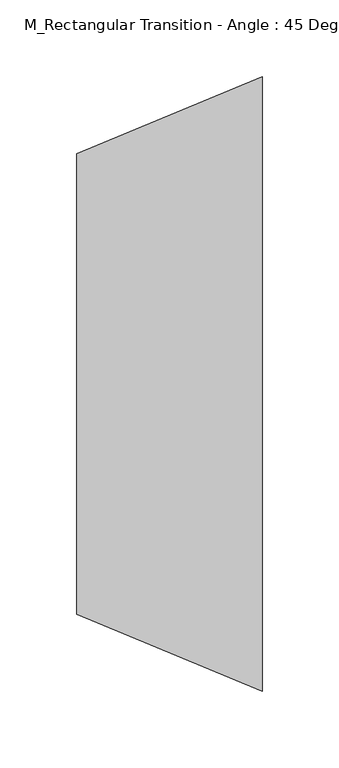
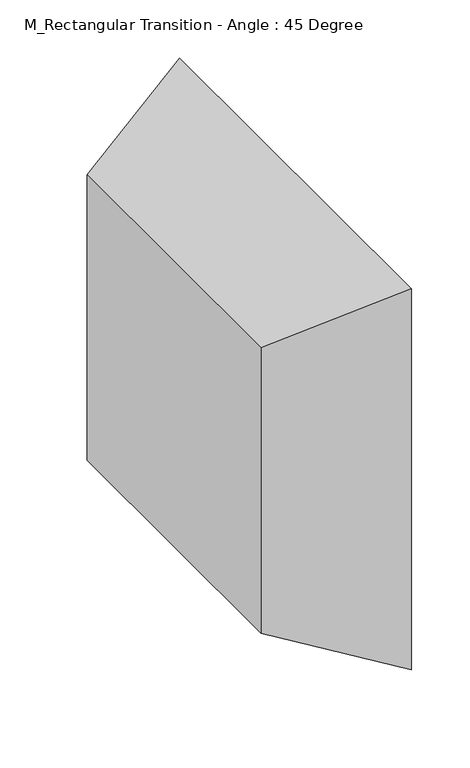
"""IFC4 building model written with IfcOpenShell, lengths in millimetres: duct fitting geometry, M_Rectangular Transition - Angle : 45 Degree."""

import ifcopenshell
import ifcopenshell.guid

model = None  # the IFC model being written
_history = None  # IfcOwnerHistory: only IFC2X3 demands one
_inside = {}  # id of a spatial element -> (the spatial element, [elements in it])
_under = {}  # id of a project, library or spatial element -> (it, [spatial elements below it])
_declared = {}  # id of a project -> (the project, [libraries it declares])
_typed = {}  # id of a type object -> (the type object, [elements of that type])
_made_of = {}  # id of a material, layer set ... -> (it, [elements and type objects made of it])


def new_model(schema):
    """Start an empty IFC model of exactly this schema.

    Asked for "IFC4X3", IfcOpenShell would pick the latest addendum, in which some entities
    have other attributes; the version numbers below select the first issue.
    IFC2X3 requires an IfcOwnerHistory on every rooted entity: one is made here for all.
    """
    global model, _history
    if schema == "IFC4X3":
        model = ifcopenshell.file(schema_version=(4, 3, 0, 0))
    else:
        model = ifcopenshell.file(schema=schema)
    _inside.clear()
    _under.clear()
    _declared.clear()
    _typed.clear()
    _made_of.clear()
    _history = None
    if model.schema == "IFC2X3":
        org = make("IfcOrganization", Name="unknown")
        user = make(
            "IfcPersonAndOrganization",
            ThePerson=make("IfcPerson", FamilyName="unknown"),
            TheOrganization=org,
        )
        app = make(
            "IfcApplication",
            ApplicationDeveloper=org,
            Version="unknown",
            ApplicationFullName="unknown",
            ApplicationIdentifier="unknown",
        )
        _history = make(
            "IfcOwnerHistory",
            OwningUser=user,
            OwningApplication=app,
            ChangeAction="ADDED",
            CreationDate=0,
        )
    return model


def make(cls, **values):
    """One entity of the class cls with the attributes given. An attribute that is None is left unset."""
    return model.create_entity(
        cls, **{name: value for name, value in values.items() if value is not None}
    )


def rooted(cls, **values):
    """An entity with a GlobalId (a new one), such as an element, a storey or a relation."""
    return make(cls, GlobalId=ifcopenshell.guid.new(), OwnerHistory=_history, **values)


def si_unit(unit_type, name, prefix=None):
    """IfcSIUnit, for example si_unit("LENGTHUNIT", "METRE", prefix="MILLI")."""
    return make("IfcSIUnit", UnitType=unit_type, Prefix=prefix, Name=name)


def assignment(units):
    """IfcUnitAssignment: the units of a project."""
    return None if units is None else make("IfcUnitAssignment", Units=units)


def point(xyz):
    """IfcCartesianPoint."""
    return None if xyz is None else make("IfcCartesianPoint", Coordinates=xyz)


def direction(xyz):
    """IfcDirection."""
    return None if xyz is None else make("IfcDirection", DirectionRatios=xyz)


def frame(location, z_axis=None, x_axis=None):
    """IfcAxis2Placement3D, a coordinate frame: its origin and axes. An axis left out is left unset."""
    return make(
        "IfcAxis2Placement3D",
        Location=point(location),
        Axis=direction(z_axis),
        RefDirection=direction(x_axis),
    )


def origin():
    """The frame at (0, 0, 0) with its axes left unset."""
    return frame((0.0, 0.0, 0.0))


def place(relative_to, where):
    """IfcLocalPlacement: puts the frame where relative to a parent placement (None: the world)."""
    return make(
        "IfcLocalPlacement", PlacementRelTo=relative_to, RelativePlacement=where
    )


def context(
    kind, dimensions, precision=None, world=None, true_north=None, identifier=None
):
    """IfcGeometricRepresentationContext, for example the 3D "Model" context."""
    return make(
        "IfcGeometricRepresentationContext",
        ContextIdentifier=identifier,
        ContextType=kind,
        CoordinateSpaceDimension=dimensions,
        Precision=precision,
        WorldCoordinateSystem=world,
        TrueNorth=true_north,
    )


def project(units=None, contexts=None):
    """IfcProject with its units and contexts."""
    return rooted(
        "IfcProject",
        Name="project",
        RepresentationContexts=contexts,
        UnitsInContext=assignment(units),
    )


def spatial(cls, under=None, at=None, **own):
    """A site, building, storey or space (cls), placed at a placement, below another one or the project."""
    s = rooted(cls, ObjectPlacement=at, **own)
    if under is not None:
        _under.setdefault(under.id(), (under, []))[1].append(s)
    return s


def faces_of(points, faces, orient=None, outer=None):
    """IfcFace entities. A face is a list of loops; a loop is a list of indices into points, from 0.

    orient and outer hold one flag for each loop. By default every Orientation is true, the
    first loop of a face is its IfcFaceOuterBound and the others are IfcFaceBound.
    """
    made = []
    for i, loops in enumerate(faces):
        bounds = []
        for j, loop in enumerate(loops):
            is_outer = j == 0 if outer is None else outer[i][j]
            bounds.append(
                make(
                    "IfcFaceOuterBound" if is_outer else "IfcFaceBound",
                    Bound=make("IfcPolyLoop", Polygon=[points[k] for k in loop]),
                    Orientation=True if orient is None else orient[i][j],
                )
            )
        made.append(make("IfcFace", Bounds=bounds))
    return made


def faceted_brep(points, faces, orient=None, outer=None, voids=None):
    """IfcFacetedBrep: a solid bounded by flat faces; with voids (closed shells), ...WithVoids."""
    shared = [point(p) for p in points]
    hull = make("IfcClosedShell", CfsFaces=faces_of(shared, faces, orient, outer))
    if voids is None:
        return make("IfcFacetedBrep", Outer=hull)
    return make(
        "IfcFacetedBrepWithVoids",
        Outer=hull,
        Voids=[
            make(cls, CfsFaces=faces_of(shared, fs, o, b)) for cls, fs, o, b in voids
        ],
    )


def shape(context_of_items, identifier, shape_type, items):
    """IfcShapeRepresentation: the items that make up one representation, for example the "Body"."""
    return make(
        "IfcShapeRepresentation",
        ContextOfItems=context_of_items,
        RepresentationIdentifier=identifier,
        RepresentationType=shape_type,
        Items=items,
    )


def source(mapping_origin, context_of_items, identifier, shape_type, items):
    """IfcRepresentationMap: a shape defined once, which mapped items show again and again."""
    return make(
        "IfcRepresentationMap",
        MappingOrigin=mapping_origin,
        MappedRepresentation=shape(context_of_items, identifier, shape_type, items),
    )


def transform(
    local_origin,
    x_axis=None,
    y_axis=None,
    z_axis=None,
    scale=None,
    scale2=None,
    scale3=None,
    uniform=True,
):
    """IfcCartesianTransformationOperator3D, or its non-uniform kind. x_axis, y_axis, z_axis: its Axis1, 2, 3."""
    if uniform:
        return make(
            "IfcCartesianTransformationOperator3D",
            Axis1=direction(x_axis),
            Axis2=direction(y_axis),
            LocalOrigin=point(local_origin),
            Scale=scale,
            Axis3=direction(z_axis),
        )
    return make(
        "IfcCartesianTransformationOperator3DnonUniform",
        Axis1=direction(x_axis),
        Axis2=direction(y_axis),
        LocalOrigin=point(local_origin),
        Scale=scale,
        Axis3=direction(z_axis),
        Scale2=scale2,
        Scale3=scale3,
    )


def mapped(mapping_source, mapping_target):
    """IfcMappedItem: shows the shape of a source again, moved by a transform."""
    return make(
        "IfcMappedItem", MappingSource=mapping_source, MappingTarget=mapping_target
    )


def made_of(thing, what):
    """Note that an element or type object is made of a material, layer set ...; save() writes the relation."""
    if what is not None:
        _made_of.setdefault(what.id(), (what, []))[1].append(thing)
    return thing


def element(
    cls,
    number,
    at=None,
    inside=None,
    cuts=None,
    type_object=None,
    material=None,
    context=None,
    identifier="Body",
    shape_type=None,
    held_by="IfcProductDefinitionShape",
    body=None,
    shapes=None,
    **own,
):
    """One element of the class cls, such as IfcWall. Its Tag is "e" and its number.

    at: its placement. inside: the storey or other place that contains it. cuts: it is an
    opening in that element (IfcRelVoidsElement). A single representation is given by context,
    identifier, shape_type and body (its items); several are given by shapes. held_by: the class
    of the entity that holds the representations. save() writes the other relations.
    """
    e = rooted(cls, Tag="e%d" % number, ObjectPlacement=at, **own)
    if body is not None:
        shapes = [shape(context, identifier, shape_type, body)]
    if shapes is not None:
        e.Representation = make(held_by, Representations=shapes)
    if inside is not None:
        _inside.setdefault(inside.id(), (inside, []))[1].append(e)
    if cuts is not None:
        rooted(
            "IfcRelVoidsElement", RelatingBuildingElement=cuts, RelatedOpeningElement=e
        )
    if type_object is not None:
        _typed.setdefault(type_object.id(), (type_object, []))[1].append(e)
    return made_of(e, material)


def aggregate(whole, parts):
    """IfcRelAggregates: a whole, such as a stair, and the parts it consists of."""
    return rooted("IfcRelAggregates", RelatingObject=whole, RelatedObjects=parts)


def save(model, path):
    """Write the relations noted so far, then the file.

    IfcRelAggregates (storeys below a building ...), IfcRelContainedInSpatialStructure (elements
    in a storey), IfcRelDefinesByType, IfcRelAssociatesMaterial and IfcRelDeclares: one each for
    every whole, place, type object, material and project.
    """
    for whole, parts in _under.values():
        aggregate(whole, parts)
    for where, things in _inside.values():
        rooted(
            "IfcRelContainedInSpatialStructure",
            RelatedElements=things,
            RelatingStructure=where,
        )
    for kind, things in _typed.values():
        rooted("IfcRelDefinesByType", RelatedObjects=things, RelatingType=kind)
    for what, things in _made_of.values():
        rooted("IfcRelAssociatesMaterial", RelatedObjects=things, RelatingMaterial=what)
    for by, libraries in _declared.values():
        rooted("IfcRelDeclares", RelatingContext=by, RelatedDefinitions=libraries)
    model.write(path)


def m_rectangular_transition_angle_45_degree_c81a1194(model_context):
    return source(origin(), model_context, "Body", "Brep", [
        faceted_brep([(120.7106781, -200.0, 200.0), (120.7106781, -200.0, -200.0), (120.7106781, 200.0, -200.0), (120.7106781, 200.0, 200.0), (0.0, -150.0, 150.0), (0.0, 150.0, 150.0), (0.0, 150.0, -150.0), (0.0, -150.0, -150.0)], [[[0, 1, 2, 3]], [[4, 5, 6, 7]], [[4, 7, 1, 0]], [[7, 6, 2, 1]], [[6, 5, 3, 2]], [[5, 4, 0, 3]]]),
        faceted_brep([(120.7106781, -200.0, 200.0), (120.7106781, -200.0, -200.0), (120.7106781, 200.0, -200.0), (120.7106781, 200.0, 200.0), (0.0, -150.0, 150.0), (0.0, 150.0, 150.0), (0.0, 150.0, -150.0), (0.0, -150.0, -150.0)], [[[0, 1, 2, 3]], [[4, 5, 6, 7]], [[4, 7, 1, 0]], [[7, 6, 2, 1]], [[6, 5, 3, 2]], [[5, 4, 0, 3]]]),
        faceted_brep([(120.7106781, -200.0, 200.0), (120.7106781, -200.0, -200.0), (120.7106781, 200.0, -200.0), (120.7106781, 200.0, 200.0), (0.0, -150.0, 150.0), (0.0, 150.0, 150.0), (0.0, 150.0, -150.0), (0.0, -150.0, -150.0)], [[[0, 1, 2, 3]], [[4, 5, 6, 7]], [[4, 7, 1, 0]], [[7, 6, 2, 1]], [[6, 5, 3, 2]], [[5, 4, 0, 3]]]),
    ])


if __name__ == "__main__":
    model = new_model("IFC4")
    model_context = context("Model", 3, world=origin())
    ifc_project = project(units=[si_unit("LENGTHUNIT", "METRE", prefix="MILLI")], contexts=[model_context])
    site = spatial("IfcSite", under=ifc_project)
    building = spatial("IfcBuilding", under=site)
    placement = place(None, origin())
    m_rectangular_transition_angle_45_degree_shape = m_rectangular_transition_angle_45_degree_c81a1194(model_context)
    element("IfcDuctFitting", 1, ObjectType="M_Rectangular Transition - Angle : 45 Degree", at=placement, inside=building, context=model_context, shape_type="MappedRepresentation", body=[
        mapped(m_rectangular_transition_angle_45_degree_shape, transform((0.0, 0.0, 0.0), x_axis=(1.0, 0.0, 0.0), y_axis=(0.0, 1.0, 0.0), z_axis=(0.0, 0.0, 1.0))),
    ])
    save(model, "model.ifc")
